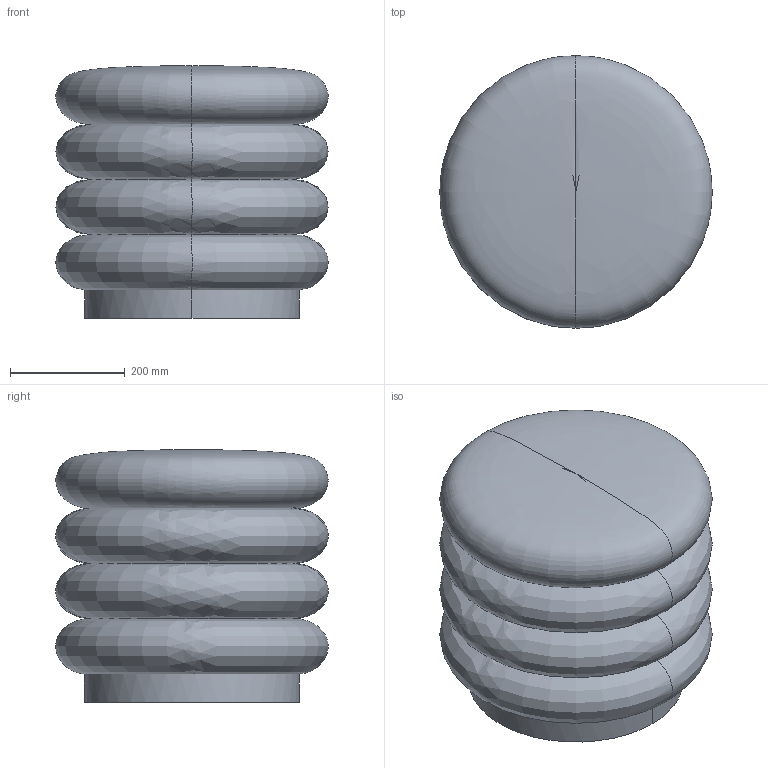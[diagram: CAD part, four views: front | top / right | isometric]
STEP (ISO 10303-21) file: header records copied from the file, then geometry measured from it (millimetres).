
FILE_DESCRIPTION(/* description */ (''),/* implementation_level */ '2;1');
FILE_NAME(/* name */ 'PXNKJR~F',/* time_stamp */ '2019-01-30T15:55:22+01:00',/* author */ (''),/* organization */ (''),/* preprocessor_version */ 'ST-DEVELOPER v15',/* originating_system */ '',/* authorisation */ '');
FILE_SCHEMA (('AUTOMOTIVE_DESIGN'));
Length unit declared in the file: millimetre
Products named in the file (1): Document
Bounding box: 474.49 x 474.44 x 440.55 mm (x, y, z)
Volume: 66821173.7 mm3; surface area: 1172068.6 mm2
Topology: 1 solids, 1 shells, 12 faces, 26 edges, 12 vertices
Faces by surface type: bspline 12
Entity records: 1192 total; most frequent: CARTESIAN_POINT 884, B_SPLINE_CURVE_WITH_KNOTS 50, ORIENTED_EDGE 44, PCURVE 44, DEFINITIONAL_REPRESENTATION 44, SURFACE_CURVE 22, EDGE_CURVE 22, ADVANCED_FACE 12
